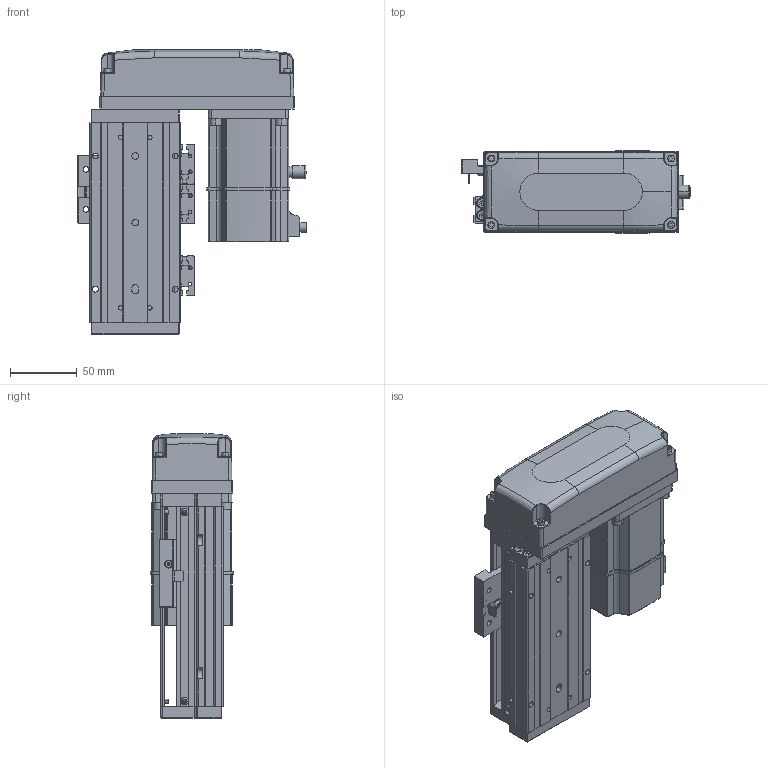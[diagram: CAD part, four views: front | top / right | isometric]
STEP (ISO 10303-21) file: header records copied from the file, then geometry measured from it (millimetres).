
FILE_DESCRIPTION (( 'STEP AP203' ), '1' );
FILE_NAME ('KTHA60-50-BL-M20-C4L.step', '2022-12-16T01:32:31', ( '微软用户' ), ( '微软中国' ), 'SwSTEP 2.0', 'SolidWorks 2020', '' );
FILE_SCHEMA (( 'CONFIG_CONTROL_DESIGN' ));
Length unit declared in the file: millimetre
Products named in the file (17): GBT 70.1-M4×16; _X2_4E0983F1_X0_200W_1; KTHA60-005; GBT77-2000M3-3; KTHA60-50-BL-M20-C4L; GB¨uT 70.2-M3¡Á5_M3¡Á6; GBT 70.1-M3℅6; GBT 70.3-M3℅6; CTHA60-016; EE_SX911P_R; KTHA60-002; CTHA60-017; BTH80-026; KTHA60-001_150; CTHA60-021; CTHA60-006-2_CTHA60-006-2; KTHA60-004
Assembly tree (51 placements, depth 2):
  KTHA60-50-BL-M20-C4L
    KTHA60-001_150
    KTHA60-004
    KTHA60-005
    GB¨uT 70.2-M3¡Á5_M3¡Á6  x6
    GBT 70.3-M3℅6  x4
    EE_SX911P_R  x3
    CTHA60-017  x3
    CTHA60-021  x2
    GBT 70.1-M4×16  x8
    GBT77-2000M3-3  x6
    GBT 70.1-M3℅6  x10
    CTHA60-016  x2
    KTHA60-002
    BTH80-026
    CTHA60-006-2_CTHA60-006-2
    _X2_4E0983F1_X0_200W_1
Bounding box: 172.1 x 62.42 x 214 mm (x, y, z)
Volume: 796756.3 mm3; surface area: 209309.9 mm2
Topology: 54 solids, 54 shells, 2348 faces, 5549 edges, 3406 vertices
Faces by surface type: plane 1237, cylinder 620, cone 274, bspline 109, torus 92, sphere 16
Entity records: 42302 total; most frequent: CARTESIAN_POINT 10034, DIRECTION 6148, ORIENTED_EDGE 6146, EDGE_CURVE 3073, AXIS2_PLACEMENT_3D 2139, VERTEX_POINT 1915, VECTOR 1870, LINE 1870
